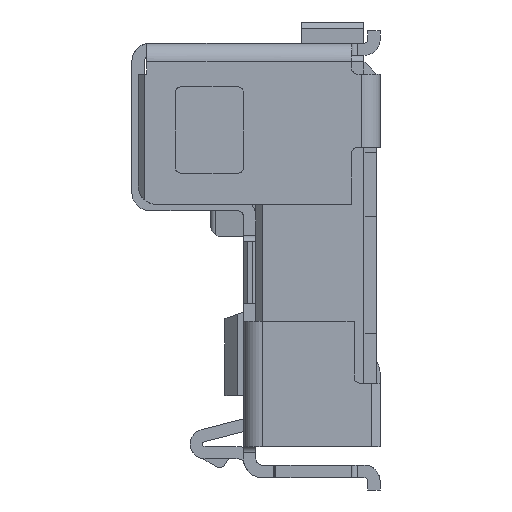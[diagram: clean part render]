
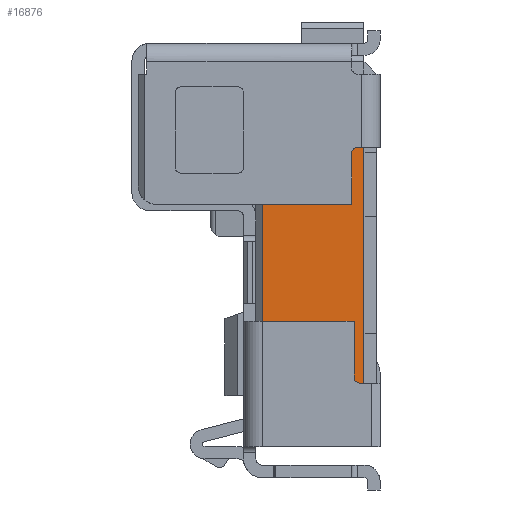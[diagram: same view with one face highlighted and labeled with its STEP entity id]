
A CAD part, left-side view. The second image highlights one B-rep face of the part: STEP entity #16876.
In plain terms, the highlighted planar face has unit normal (-1, 0, 0).
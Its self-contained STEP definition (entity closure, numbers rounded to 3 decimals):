
#1218 = DIRECTION ( 'NONE',  ( 0., 0., 1. ) ) ;
#1636 = VERTEX_POINT ( 'NONE', #9209 ) ;
#3113 = EDGE_CURVE ( 'NONE', #27633, #12874, #21094, .T. ) ;
#3612 = VECTOR ( 'NONE', #26839, 1000. ) ;
#3709 = CIRCLE ( 'NONE', #10135, 0.05 ) ;
#4117 = VECTOR ( 'NONE', #1218, 1000. ) ;
#4792 = CARTESIAN_POINT ( 'NONE',  ( -7.535, 0.21, 1.75 ) ) ;
#5564 = ORIENTED_EDGE ( 'NONE', *, *, #33030, .F. ) ;
#6367 = VECTOR ( 'NONE', #25199, 1000. ) ;
#7840 = ORIENTED_EDGE ( 'NONE', *, *, #29957, .F. ) ;
#8646 = AXIS2_PLACEMENT_3D ( 'NONE', #10649, #20184, #13652 ) ;
#9091 = CARTESIAN_POINT ( 'NONE',  ( -7.535, 0.93, 3.84 ) ) ;
#9207 = ORIENTED_EDGE ( 'NONE', *, *, #33630, .F. ) ;
#9209 = CARTESIAN_POINT ( 'NONE',  ( -7.535, 0.95, 2.69 ) ) ;
#9459 = LINE ( 'NONE', #39464, #40934 ) ;
#9478 = VECTOR ( 'NONE', #34138, 1000. ) ;
#9865 = DIRECTION ( 'NONE',  ( 0., -1., 0. ) ) ;
#10135 = AXIS2_PLACEMENT_3D ( 'NONE', #28995, #42106, #19141 ) ;
#10649 = CARTESIAN_POINT ( 'NONE',  ( -7.535, 0.16, 1.3 ) ) ;
#12190 = ORIENTED_EDGE ( 'NONE', *, *, #42384, .F. ) ;
#12263 = LINE ( 'NONE', #27041, #13270 ) ;
#12874 = VERTEX_POINT ( 'NONE', #22784 ) ;
#12959 = EDGE_CURVE ( 'NONE', #20076, #21387, #39629, .T. ) ;
#13147 = DIRECTION ( 'NONE',  ( 0., 0., -1. ) ) ;
#13270 = VECTOR ( 'NONE', #33524, 1000. ) ;
#13652 = DIRECTION ( 'NONE',  ( 0., 1., 0. ) ) ;
#14108 = EDGE_CURVE ( 'NONE', #25392, #16665, #14789, .T. ) ;
#14789 = LINE ( 'NONE', #39462, #33437 ) ;
#14856 = CARTESIAN_POINT ( 'NONE',  ( -7.535, 0.16, 1.25 ) ) ;
#16485 = VERTEX_POINT ( 'NONE', #20400 ) ;
#16665 = VERTEX_POINT ( 'NONE', #17983 ) ;
#16876 = ADVANCED_FACE ( 'NONE', ( #32177 ), #19007, .F. ) ;
#17487 = EDGE_CURVE ( 'NONE', #21387, #23315, #39374, .T. ) ;
#17640 = LINE ( 'NONE', #30861, #9478 ) ;
#17983 = CARTESIAN_POINT ( 'NONE',  ( -7.535, 0.13, 1.25 ) ) ;
#18427 = DIRECTION ( 'NONE',  ( 1., 0., 0. ) ) ;
#19007 = PLANE ( 'NONE',  #37752 ) ;
#19141 = DIRECTION ( 'NONE',  ( 0., 0., 1. ) ) ;
#19615 = CARTESIAN_POINT ( 'NONE',  ( -7.535, 0.23, 3.84 ) ) ;
#20076 = VERTEX_POINT ( 'NONE', #14856 ) ;
#20184 = DIRECTION ( 'NONE',  ( 1., 0., 0. ) ) ;
#20400 = CARTESIAN_POINT ( 'NONE',  ( -7.535, 0.95, 1.75 ) ) ;
#21094 = LINE ( 'NONE', #19615, #3612 ) ;
#21387 = VERTEX_POINT ( 'NONE', #35982 ) ;
#22500 = CARTESIAN_POINT ( 'NONE',  ( -7.535, 0.13, 3.15 ) ) ;
#22784 = CARTESIAN_POINT ( 'NONE',  ( -7.535, 0.23, 3.1 ) ) ;
#23315 = VERTEX_POINT ( 'NONE', #4792 ) ;
#23878 = CARTESIAN_POINT ( 'NONE',  ( -7.535, 0.18, 3.15 ) ) ;
#24104 = CARTESIAN_POINT ( 'NONE',  ( -7.535, 0.93, 1.75 ) ) ;
#24506 = ORIENTED_EDGE ( 'NONE', *, *, #14108, .F. ) ;
#25199 = DIRECTION ( 'NONE',  ( 0., 0., 1. ) ) ;
#25392 = VERTEX_POINT ( 'NONE', #22500 ) ;
#26340 = VECTOR ( 'NONE', #34352, 1000. ) ;
#26839 = DIRECTION ( 'NONE',  ( 0., 0., 1. ) ) ;
#27041 = CARTESIAN_POINT ( 'NONE',  ( -7.535, 0.93, 3.15 ) ) ;
#27633 = VERTEX_POINT ( 'NONE', #39053 ) ;
#28041 = ORIENTED_EDGE ( 'NONE', *, *, #28551, .F. ) ;
#28551 = EDGE_CURVE ( 'NONE', #16665, #20076, #17640, .T. ) ;
#28995 = CARTESIAN_POINT ( 'NONE',  ( -7.535, 0.18, 3.1 ) ) ;
#29957 = EDGE_CURVE ( 'NONE', #12874, #41109, #3709, .T. ) ;
#30861 = CARTESIAN_POINT ( 'NONE',  ( -7.535, 0.93, 1.25 ) ) ;
#32177 = FACE_OUTER_BOUND ( 'NONE', #42275, .T. ) ;
#32183 = DIRECTION ( 'NONE',  ( 0., 1., 0. ) ) ;
#32504 = LINE ( 'NONE', #37377, #4117 ) ;
#33030 = EDGE_CURVE ( 'NONE', #16485, #1636, #32504, .T. ) ;
#33437 = VECTOR ( 'NONE', #13147, 1000. ) ;
#33484 = ORIENTED_EDGE ( 'NONE', *, *, #17487, .F. ) ;
#33524 = DIRECTION ( 'NONE',  ( 0., -1., 0. ) ) ;
#33630 = EDGE_CURVE ( 'NONE', #41109, #25392, #12263, .T. ) ;
#34138 = DIRECTION ( 'NONE',  ( 0., 1., 0. ) ) ;
#34352 = DIRECTION ( 'NONE',  ( 0., 1., 0. ) ) ;
#35130 = LINE ( 'NONE', #24104, #26340 ) ;
#35443 = CARTESIAN_POINT ( 'NONE',  ( -7.535, 0.21, 3.84 ) ) ;
#35982 = CARTESIAN_POINT ( 'NONE',  ( -7.535, 0.21, 1.3 ) ) ;
#35988 = ORIENTED_EDGE ( 'NONE', *, *, #12959, .F. ) ;
#36848 = ORIENTED_EDGE ( 'NONE', *, *, #3113, .F. ) ;
#37327 = ORIENTED_EDGE ( 'NONE', *, *, #38696, .F. ) ;
#37377 = CARTESIAN_POINT ( 'NONE',  ( -7.535, 0.95, 3.84 ) ) ;
#37752 = AXIS2_PLACEMENT_3D ( 'NONE', #9091, #18427, #32183 ) ;
#38696 = EDGE_CURVE ( 'NONE', #23315, #16485, #35130, .T. ) ;
#39053 = CARTESIAN_POINT ( 'NONE',  ( -7.535, 0.23, 2.69 ) ) ;
#39374 = LINE ( 'NONE', #35443, #6367 ) ;
#39462 = CARTESIAN_POINT ( 'NONE',  ( -7.535, 0.13, 0. ) ) ;
#39464 = CARTESIAN_POINT ( 'NONE',  ( -7.535, 0.93, 2.69 ) ) ;
#39629 = CIRCLE ( 'NONE', #8646, 0.05 ) ;
#40934 = VECTOR ( 'NONE', #9865, 1000. ) ;
#41109 = VERTEX_POINT ( 'NONE', #23878 ) ;
#42106 = DIRECTION ( 'NONE',  ( 1., 0., 0. ) ) ;
#42275 = EDGE_LOOP ( 'NONE', ( #12190, #5564, #37327, #33484, #35988, #28041, #24506, #9207, #7840, #36848 ) ) ;
#42384 = EDGE_CURVE ( 'NONE', #1636, #27633, #9459, .T. ) ;
